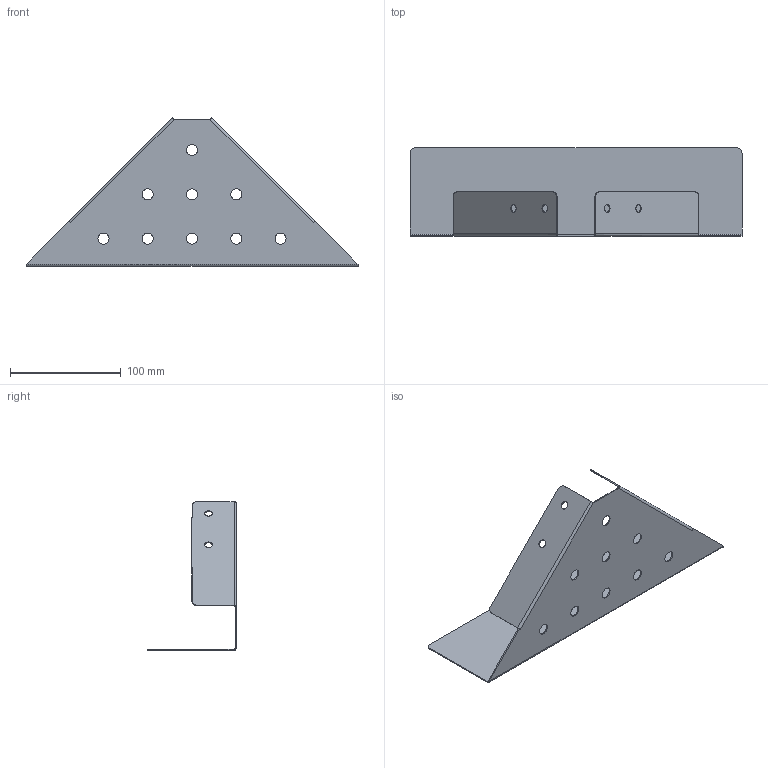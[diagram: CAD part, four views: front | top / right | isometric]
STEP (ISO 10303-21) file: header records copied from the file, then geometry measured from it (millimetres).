
FILE_DESCRIPTION (( 'STEP AP203' ), '1' );
FILE_NAME ('Pó³ka ³azienkowa naro¿na ROSH.STEP', '2022-02-28T12:27:55', ( '' ), ( '' ), 'SwSTEP 2.0', 'SolidWorks 2021', '' );
FILE_SCHEMA (( 'CONFIG_CONTROL_DESIGN' ));
Length unit declared in the file: millimetre
Products named in the file (1): Pó³ka ³azienkowa naro¿na ROSH
Bounding box: 300 x 80 x 134.32 mm (x, y, z)
Volume: 55484.2 mm3; surface area: 112360 mm2
Topology: 1 solids, 1 shells, 72 faces, 190 edges, 120 vertices
Faces by surface type: cylinder 40, plane 32
Entity records: 2375 total; most frequent: DIRECTION 412, CARTESIAN_POINT 403, ORIENTED_EDGE 380, EDGE_CURVE 190, AXIS2_PLACEMENT_3D 153, VERTEX_POINT 120, LINE 106, VECTOR 106
